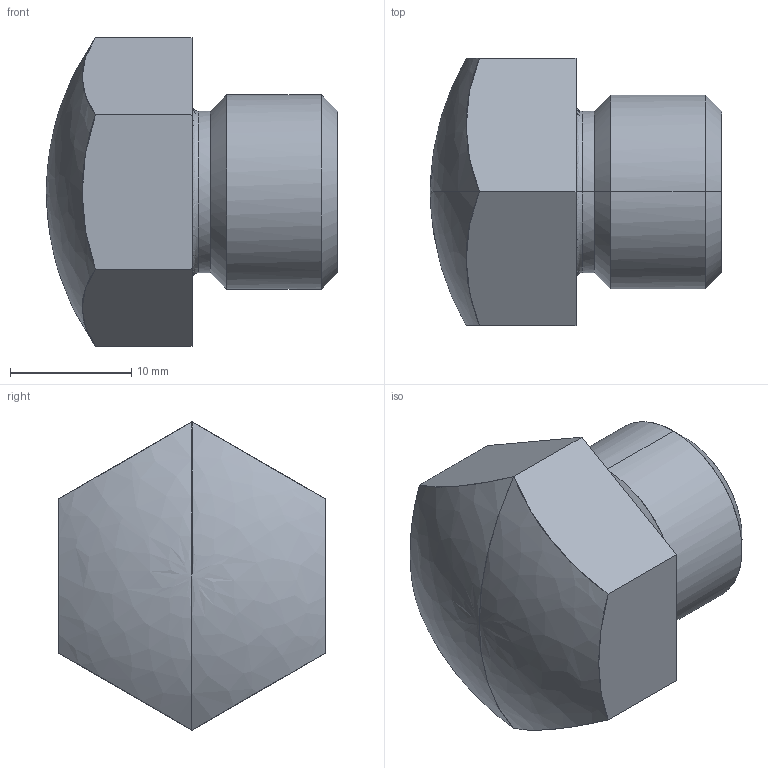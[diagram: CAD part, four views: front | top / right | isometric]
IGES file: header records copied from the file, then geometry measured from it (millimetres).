
Start section:  PTC IGES file: BS_162.igs
Global section: file name: BS_162.igs; native system: Pro/ENGINEER by Parametric Technology Corporation; preprocessor: 2010040; author: chad.steele; organization: Unknown; date: 20100913.144724; units: millimetre
Bounding box: 24 x 22 x 25.4 mm (x, y, z)
Surface area: 2156.6 mm2 (no closed solid volume)
Topology: 0 solids, 0 shells, 20 faces, 86 edges, 84 vertices
Faces by surface type: revolution 12, bspline 8
